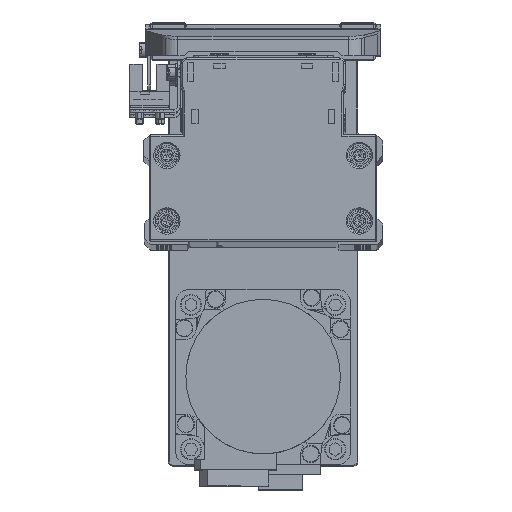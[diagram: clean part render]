
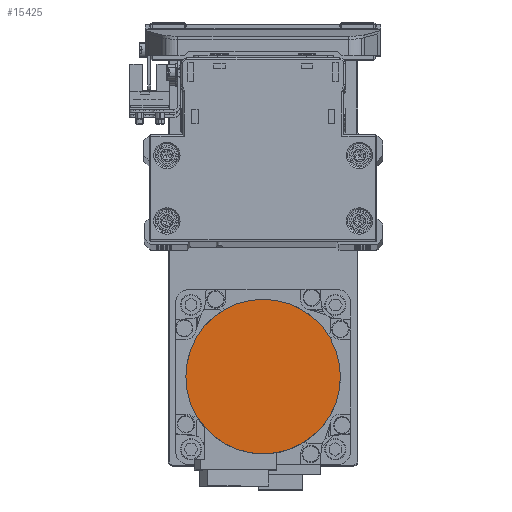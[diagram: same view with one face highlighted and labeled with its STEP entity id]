
A CAD part, top view. The second image highlights one B-rep face of the part: STEP entity #15425.
In plain terms, the highlighted planar face has unit normal (0, 0, 1) as drawn and (0, 0, -1) by its records, which use the part's own axes.
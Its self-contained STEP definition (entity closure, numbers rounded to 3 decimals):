
#570 = EDGE_CURVE ( 'NONE', #18634, #27942, #34672, .T. ) ;
#4218 = CARTESIAN_POINT ( 'NONE',  ( 0., 0., -109.7 ) ) ;
#6305 = CIRCLE ( 'NONE', #29845, 26.5 ) ;
#9548 = DIRECTION ( 'NONE',  ( 0., 0., 1. ) ) ;
#9571 = DIRECTION ( 'NONE',  ( 1., 0., 0. ) ) ;
#12770 = ORIENTED_EDGE ( 'NONE', *, *, #38446, .F. ) ;
#14379 = EDGE_LOOP ( 'NONE', ( #21063, #12770 ) ) ;
#14717 = AXIS2_PLACEMENT_3D ( 'NONE', #4218, #17060, #29908 ) ;
#15425 = ADVANCED_FACE ( 'NONE', ( #20221 ), #33041, .F. ) ;
#17060 = DIRECTION ( 'NONE',  ( 0., 0., 1. ) ) ;
#18634 = VERTEX_POINT ( 'NONE', #28425 ) ;
#20221 = FACE_OUTER_BOUND ( 'NONE', #14379, .T. ) ;
#21063 = ORIENTED_EDGE ( 'NONE', *, *, #570, .F. ) ;
#22408 = DIRECTION ( 'NONE',  ( -1., 0., 0. ) ) ;
#25591 = CARTESIAN_POINT ( 'NONE',  ( 0., 0., -109.7 ) ) ;
#27942 = VERTEX_POINT ( 'NONE', #31105 ) ;
#28425 = CARTESIAN_POINT ( 'NONE',  ( -26.5, 0., -109.7 ) ) ;
#29845 = AXIS2_PLACEMENT_3D ( 'NONE', #25591, #38399, #9571 ) ;
#29908 = DIRECTION ( 'NONE',  ( 1., 0., 0. ) ) ;
#31105 = CARTESIAN_POINT ( 'NONE',  ( 26.5, 0., -109.7 ) ) ;
#33041 = PLANE ( 'NONE',  #14717 ) ;
#33364 = AXIS2_PLACEMENT_3D ( 'NONE', #38377, #9548, #22408 ) ;
#34672 = CIRCLE ( 'NONE', #33364, 26.5 ) ;
#38377 = CARTESIAN_POINT ( 'NONE',  ( 0., 0., -109.7 ) ) ;
#38399 = DIRECTION ( 'NONE',  ( 0., 0., 1. ) ) ;
#38446 = EDGE_CURVE ( 'NONE', #27942, #18634, #6305, .T. ) ;
